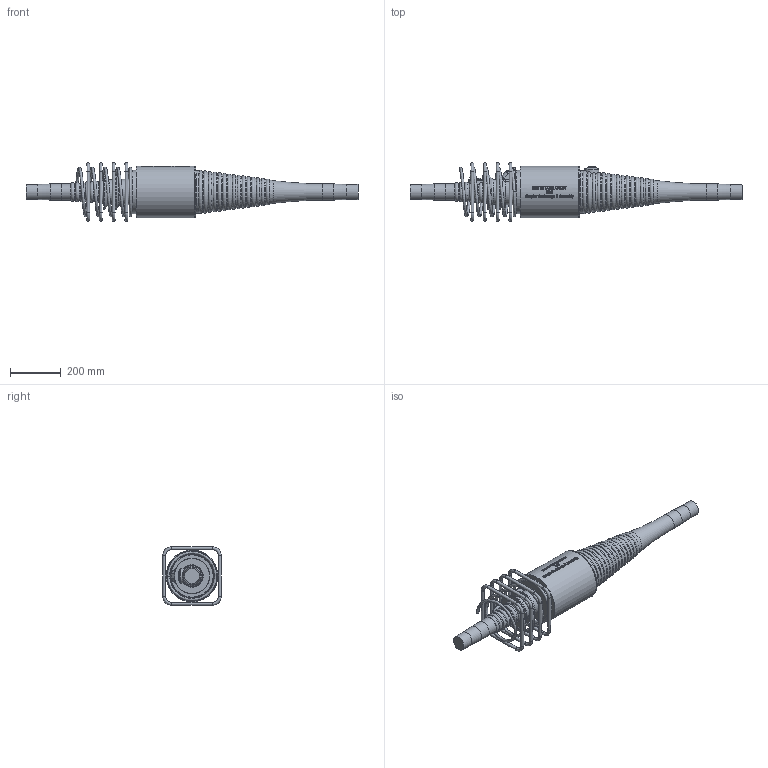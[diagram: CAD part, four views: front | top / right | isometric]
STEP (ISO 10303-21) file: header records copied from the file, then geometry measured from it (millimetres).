
FILE_DESCRIPTION(/* description */ (''),/* implementation_level */ '2;1');
FILE_NAME(/* name */ 'BBR VT CONA CMI BT 506_Coupler H Assembly_CS-34,28.stp',/* time_stamp */ '2025-04-30T09:06:20+02:00',/* author */ ('tk'),/* organization */ (''),/* preprocessor_version */ 'ST-DEVELOPER v20',/* originating_system */ 'Autodesk Inventor 2024',/* authorisation */ '');
FILE_SCHEMA (('AUTOMOTIVE_DESIGN { 1 0 10303 214 3 1 1 }'));
Products named in the file (1): BBR VT CONA CMI BT 506_Coupler H Assembly_CS-34,28
Bounding box: 1303 x 230 x 230 mm (x, y, z)
Volume: 16426045.9 mm3; surface area: 888341.8 mm2
Topology: 9 solids, 9 shells, 948 faces, 2485 edges, 1608 vertices
Faces by surface type: bspline 383, plane 303, torus 107, cylinder 105, cone 26, sphere 24
Full cylindrical faces by diameter (mm): 12 x16, 34 x2, 57 x2, 59 x2, 64 x2, 79.5 x2, 133.801 x1, 139.387 x1, 170 x1, 203 x2
Entity records: 43653 total; most frequent: CARTESIAN_POINT 21918, ORIENTED_EDGE 4958, DIRECTION 3590, EDGE_CURVE 2479, VERTEX_POINT 1608, AXIS2_PLACEMENT_3D 1320, EDGE_LOOP 1015, LINE 950
